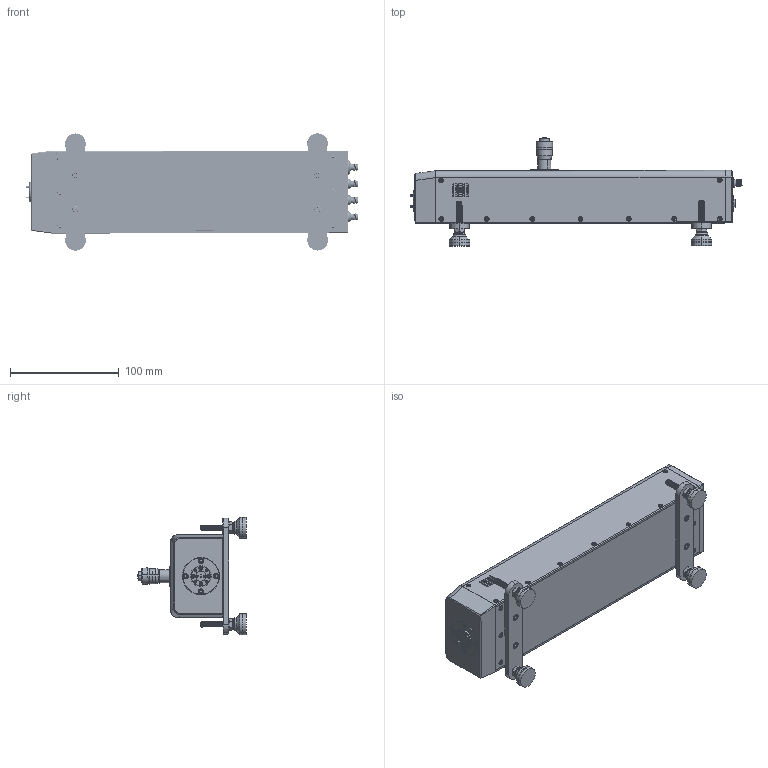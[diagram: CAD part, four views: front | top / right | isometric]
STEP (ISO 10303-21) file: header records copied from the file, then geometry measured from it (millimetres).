
FILE_DESCRIPTION (( 'STEP AP214' ), '1' );
FILE_NAME ('TO-SW-A-M, Defeatured.STEP', '2023-06-28T23:18:45', ( '' ), ( '' ), 'SwSTEP 2.0', 'SolidWorks 2021', '' );
FILE_SCHEMA (( 'AUTOMOTIVE_DESIGN' ));
Length unit declared in the file: inch
Products named in the file (1): TO-SW-A-M, Defeatured
Bounding box: 305.75 x 99.79 x 108.07 mm (x, y, z)
Volume: 1098058.5 mm3; surface area: 169961.2 mm2
Topology: 51 solids, 69 shells, 2562 faces, 6219 edges, 3895 vertices
Faces by surface type: cylinder 978, plane 935, cone 590, bspline 35, sphere 16, torus 8
Entity records: 136583 total; most frequent: CARTESIAN_POINT 46424, ORIENTED_EDGE 12166, DIRECTION 11678, EDGE_CURVE 6083, AXIS2_PLACEMENT_3D 4545, VERTEX_POINT 3871, EDGE_LOOP 2862, VECTOR 2588
